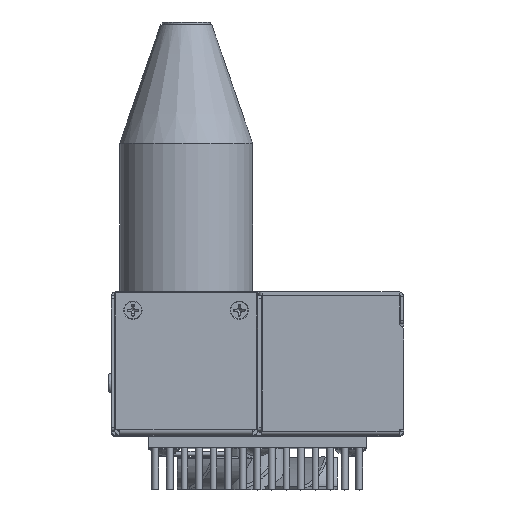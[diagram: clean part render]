
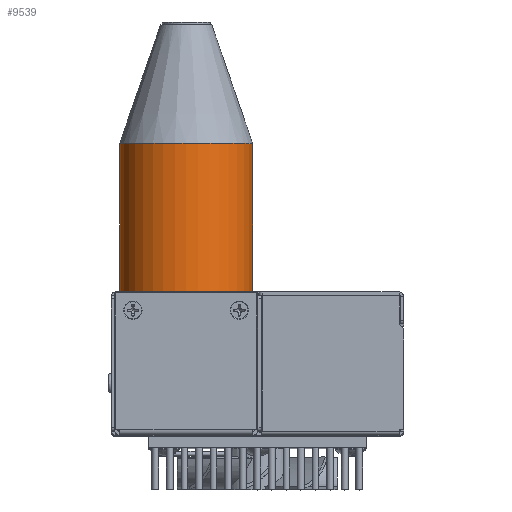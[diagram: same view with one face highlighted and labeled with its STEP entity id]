
A CAD part, top view. The second image highlights one B-rep face of the part: STEP entity #9539.
In plain terms, the highlighted cylindrical face has radius 15.875 mm (diameter 31.75 mm), a full revolution.
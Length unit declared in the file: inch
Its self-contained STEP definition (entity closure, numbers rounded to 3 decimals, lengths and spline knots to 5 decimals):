
#4729 = CYLINDRICAL_SURFACE ( 'NONE', #88410, 0.625 ) ;
#9539 = ADVANCED_FACE ( 'NONE', ( #66972, #43843 ), #4729, .T. ) ;
#13008 = DIRECTION ( 'NONE',  ( 0., -1., 0. ) ) ;
#15801 = AXIS2_PLACEMENT_3D ( 'NONE', #94194, #47870, #79243 ) ;
#18392 = VERTEX_POINT ( 'NONE', #72890 ) ;
#21199 = EDGE_CURVE ( 'NONE', #18392, #18392, #71566, .T. ) ;
#21718 = DIRECTION ( 'NONE',  ( -1., 0., 0. ) ) ;
#27426 = CARTESIAN_POINT ( 'NONE',  ( 0., 2.06868, 0.67618 ) ) ;
#28421 = CARTESIAN_POINT ( 'NONE',  ( 0., 0.32382, 0.67618 ) ) ;
#40805 = EDGE_LOOP ( 'NONE', ( #85690 ) ) ;
#43323 = EDGE_LOOP ( 'NONE', ( #97876 ) ) ;
#43843 = FACE_OUTER_BOUND ( 'NONE', #40805, .T. ) ;
#47870 = DIRECTION ( 'NONE',  ( 0., 1., 0. ) ) ;
#51536 = DIRECTION ( 'NONE',  ( -1., 0., 0. ) ) ;
#52405 = CARTESIAN_POINT ( 'NONE',  ( -0.625, 2.06868, 0.67618 ) ) ;
#55053 = EDGE_CURVE ( 'NONE', #97225, #97225, #96244, .T. ) ;
#66972 = FACE_OUTER_BOUND ( 'NONE', #43323, .T. ) ;
#71566 = CIRCLE ( 'NONE', #15801, 0.625 ) ;
#72890 = CARTESIAN_POINT ( 'NONE',  ( 0.625, 0.67882, 0.67618 ) ) ;
#73688 = DIRECTION ( 'NONE',  ( 0., -1., 0. ) ) ;
#79243 = DIRECTION ( 'NONE',  ( 1., 0., 0. ) ) ;
#85690 = ORIENTED_EDGE ( 'NONE', *, *, #55053, .T. ) ;
#86304 = AXIS2_PLACEMENT_3D ( 'NONE', #27426, #13008, #21718 ) ;
#88410 = AXIS2_PLACEMENT_3D ( 'NONE', #28421, #73688, #51536 ) ;
#94194 = CARTESIAN_POINT ( 'NONE',  ( 0., 0.67882, 0.67618 ) ) ;
#96244 = CIRCLE ( 'NONE', #86304, 0.625 ) ;
#97225 = VERTEX_POINT ( 'NONE', #52405 ) ;
#97876 = ORIENTED_EDGE ( 'NONE', *, *, #21199, .T. ) ;
